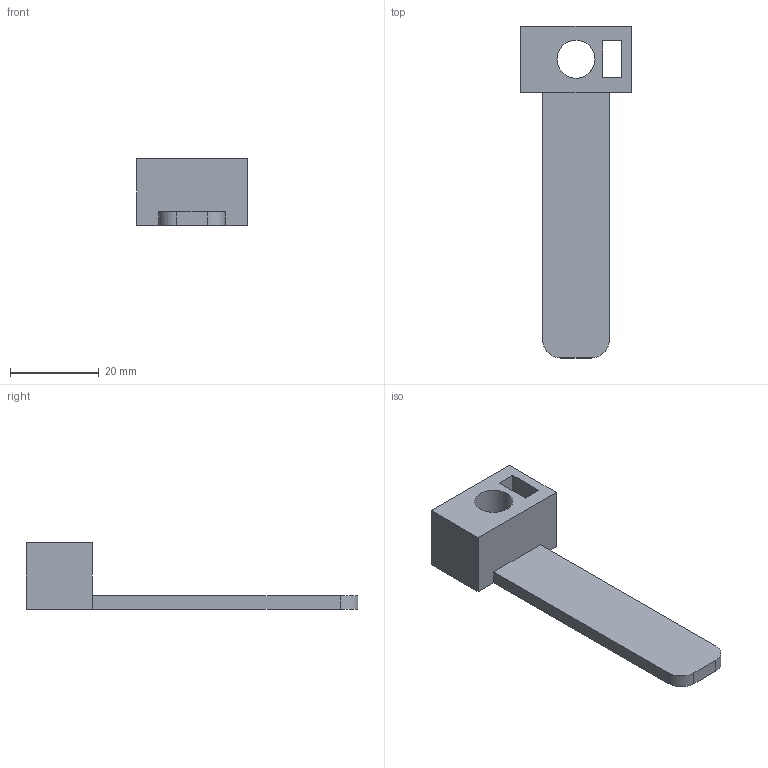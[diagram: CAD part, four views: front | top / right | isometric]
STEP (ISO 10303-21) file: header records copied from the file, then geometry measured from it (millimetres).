
FILE_DESCRIPTION(/* description */ (''),/* implementation_level */ '2;1');
FILE_NAME(/* name */ 'cup_holder_roof v5.step',/* time_stamp */ '2026-04-10T14:29:02+02:00',/* author */ (''),/* organization */ (''),/* preprocessor_version */ 'ST-DEVELOPER v20.1',/* originating_system */ 'Autodesk Translation Framework v14.24.0.0',/* authorisation */ '');
FILE_SCHEMA (('AUTOMOTIVE_DESIGN { 1 0 10303 214 3 1 1 }'));
Length unit declared in the file: millimetre
Products named in the file (1): (Niezapisany)
Bounding box: 25 x 75 x 15 mm (x, y, z)
Volume: 6799.6 mm3; surface area: 4660.9 mm2
Topology: 1 solids, 1 shells, 19 faces, 51 edges, 34 vertices
Faces by surface type: plane 14, cylinder 5
Full cylindrical faces by diameter (mm): 5.5 x2, 8.6 x1
Entity records: 674 total; most frequent: CARTESIAN_POINT 138, ORIENTED_EDGE 102, DIRECTION 99, EDGE_CURVE 51, LINE 41, VECTOR 41, VERTEX_POINT 34, AXIS2_PLACEMENT_3D 29
